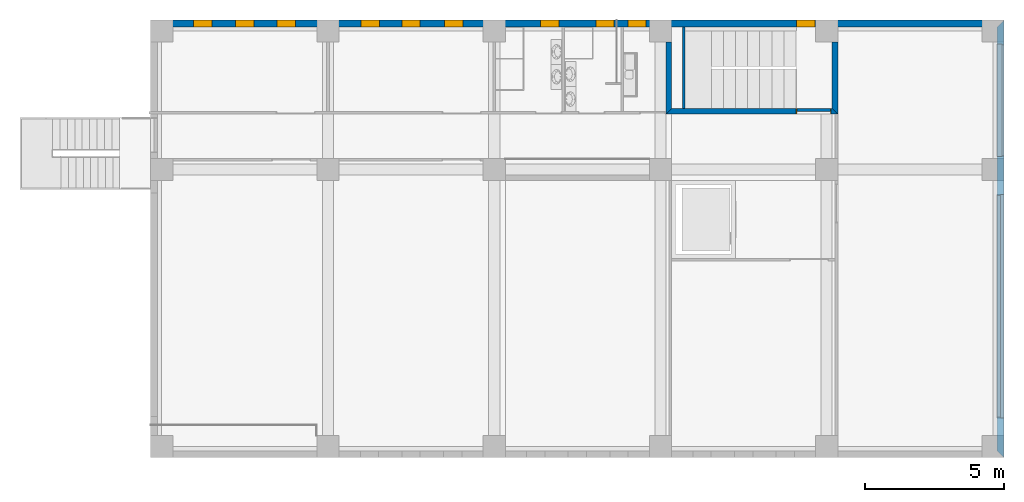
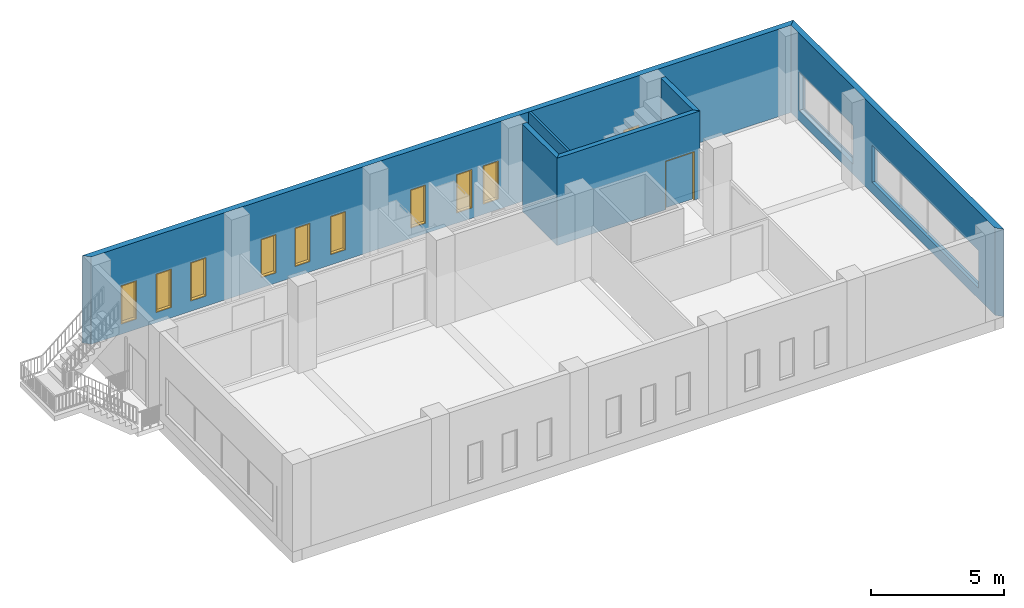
# One storey, part 4 of 14: 10 windows, 6 walls, 1 door, 13 openings.
"""IFC2X3 building model written with IfcOpenShell, lengths in millimetres."""

from ifc_helpers import new_model, entity, si_unit, converted_unit, direction, frame, origin_with_axes, origin_2d_with_axis, place, context, project, spatial, polyline, rectangle, outline, extrude, open_shell, surface_model, source, transform, mapped, material, layer, layer_set, layer_usage, type_object, element, fill, save


model = new_model("IFC2X3")

# Units and contexts
model_context = context("Model", 3, precision=1e-05, world=origin_with_axes(), true_north=direction((0.0, 1.0)))
ifc_project = project(units=[si_unit("LENGTHUNIT", "METRE", prefix="MILLI"), si_unit("AREAUNIT", "SQUARE_METRE"), si_unit("VOLUMEUNIT", "CUBIC_METRE"), converted_unit("PLANEANGLEUNIT", "DEGREE", entity("IfcPlaneAngleMeasure", 0.017453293), si_unit("PLANEANGLEUNIT", "RADIAN"), dimensions=[0, 0, 0, 0, 0, 0, 0]), si_unit("SOLIDANGLEUNIT", "STERADIAN"), si_unit("MASSUNIT", "GRAM"), si_unit("TIMEUNIT", "SECOND"), si_unit("THERMODYNAMICTEMPERATUREUNIT", "DEGREE_CELSIUS"), si_unit("LUMINOUSINTENSITYUNIT", "LUMEN")], contexts=[model_context])

# Site, building, storey
site_placement = place(None, origin_with_axes())
site = spatial("IfcSite", under=ifc_project, at=site_placement, Name="\x83T\x83C\x83g", CompositionType="ELEMENT")
building_placement = place(site_placement, origin_with_axes())
building = spatial("IfcBuilding", under=site, at=building_placement, Name="Daitec-Sample 201208", CompositionType="ELEMENT")
storey_placement = place(building_placement, frame((0.0, 0.0, 4000.0), z_axis=(0.0, 0.0, 1.0), x_axis=(1.0, 0.0, 0.0)))
storey = spatial("IfcBuildingStorey", under=building, at=storey_placement, Name="2F", CompositionType="ELEMENT", Elevation=4000.0)

# Wall, openings, windows
ifc_material_1 = material(Name="\x83R\x83\x93\x83N\x83\x8a\x81[\x83g-\x8d\\\x91¢2")
ifc_layer_1 = layer(ifc_material_1, 250.0, ventilated="UNKNOWN")
ifc_layer_set_1 = layer_set([ifc_layer_1], Name="\x83R\x83\x93\x83N\x83\x8a\x81[\x83g-\x8d\\\x91¢2 250")
ifc_layer_usage_1 = layer_usage(ifc_layer_set_1, "AXIS2", "POSITIVE", 0.0)
wall_type_1 = type_object("IfcWallType", Name="\x83R\x83\x93\x83N\x83\x8a\x81[\x83g-\x8d\\\x91¢2 250", PredefinedType="NOTDEFINED")
wall_1_placement = place(storey_placement, frame((36900.0, 23800.0, 0.0), z_axis=(0.0, 0.0, 1.0), x_axis=(-1.0, 0.0, 0.0)))
wall_1 = element("IfcWallStandardCase", 1, at=wall_1_placement, inside=storey, type_object=wall_type_1, material=ifc_layer_usage_1, Name="W8", context=model_context, shape_type="SweptSolid", body=[
    extrude(outline(polyline([(0.0, 0.0), (30800.0, 0.0), (30550.0, 250.0), (250.0, 250.0), (0.0, 0.0)])), origin_with_axes(), (0.0, 0.0, 1.0), 4000.0),
])
opening_1_placement = place(wall_1_placement, frame((28920.264, 0.0, 500.0), z_axis=(0.0, 0.0, 1.0), x_axis=(1.0, 0.0, 0.0)))
opening_1 = element("IfcOpeningElement", 2, at=opening_1_placement, cuts=wall_1, context=model_context, shape_type="SweptSolid", body=[
    extrude(rectangle(XDim=600.0, YDim=1700.0, at=origin_2d_with_axis()), frame((0.0, 59.0, 850.0), z_axis=(0.0, 1.0, 0.0), x_axis=(1.0, 0.0, 0.0)), (0.0, 0.0, 1.0), 252.0),
    extrude(rectangle(XDim=600.0, YDim=1700.0, at=origin_2d_with_axis()), frame((0.0, 61.0, 850.0), z_axis=(0.0, -1.0, 0.0), x_axis=(1.0, 0.0, 0.0)), (0.0, 0.0, 1.0), 252.0),
    extrude(rectangle(XDim=660.0, YDim=1760.0, at=origin_2d_with_axis()), frame((0.0, -66.0, 850.0), z_axis=(0.0, 1.0, 0.0), x_axis=(1.0, 0.0, 0.0)), (0.0, 0.0, 1.0), 252.0),
])
opening_2_placement = place(wall_1_placement, frame((27403.544, 0.0, 500.0), z_axis=(0.0, 0.0, 1.0), x_axis=(1.0, 0.0, 0.0)))
opening_2 = element("IfcOpeningElement", 3, at=opening_2_placement, cuts=wall_1, context=model_context, shape_type="SweptSolid", body=[
    extrude(rectangle(XDim=600.0, YDim=1700.0, at=origin_2d_with_axis()), frame((0.0, 59.0, 850.0), z_axis=(0.0, 1.0, 0.0), x_axis=(1.0, 0.0, 0.0)), (0.0, 0.0, 1.0), 252.0),
    extrude(rectangle(XDim=600.0, YDim=1700.0, at=origin_2d_with_axis()), frame((0.0, 61.0, 850.0), z_axis=(0.0, -1.0, 0.0), x_axis=(1.0, 0.0, 0.0)), (0.0, 0.0, 1.0), 252.0),
    extrude(rectangle(XDim=660.0, YDim=1760.0, at=origin_2d_with_axis()), frame((0.0, -66.0, 850.0), z_axis=(0.0, 1.0, 0.0), x_axis=(1.0, 0.0, 0.0)), (0.0, 0.0, 1.0), 252.0),
])
opening_3_placement = place(wall_1_placement, frame((25908.913, 0.0, 500.0), z_axis=(0.0, 0.0, 1.0), x_axis=(1.0, 0.0, 0.0)))
opening_3 = element("IfcOpeningElement", 4, at=opening_3_placement, cuts=wall_1, context=model_context, shape_type="SweptSolid", body=[
    extrude(rectangle(XDim=600.0, YDim=1700.0, at=origin_2d_with_axis()), frame((0.0, 191.0, 850.0), z_axis=(0.0, -1.0, 0.0), x_axis=(1.0, 0.0, 0.0)), (0.0, 0.0, 1.0), 252.0),
    extrude(rectangle(XDim=600.0, YDim=1700.0, at=origin_2d_with_axis()), frame((0.0, 189.0, 850.0), z_axis=(0.0, 1.0, 0.0), x_axis=(1.0, 0.0, 0.0)), (0.0, 0.0, 1.0), 252.0),
    extrude(rectangle(XDim=660.0, YDim=1760.0, at=origin_2d_with_axis()), frame((0.0, 316.0, 850.0), z_axis=(0.0, -1.0, 0.0), x_axis=(1.0, 0.0, 0.0)), (0.0, 0.0, 1.0), 252.0),
])
opening_4_placement = place(wall_1_placement, frame((21400.0, 0.0, 500.0), z_axis=(0.0, 0.0, 1.0), x_axis=(1.0, 0.0, 0.0)))
opening_4 = element("IfcOpeningElement", 5, at=opening_4_placement, cuts=wall_1, context=model_context, shape_type="SweptSolid", body=[
    extrude(rectangle(XDim=600.0, YDim=1700.0, at=origin_2d_with_axis()), frame((0.0, 191.0, 850.0), z_axis=(0.0, -1.0, 0.0), x_axis=(1.0, 0.0, 0.0)), (0.0, 0.0, 1.0), 252.0),
    extrude(rectangle(XDim=600.0, YDim=1700.0, at=origin_2d_with_axis()), frame((0.0, 189.0, 850.0), z_axis=(0.0, 1.0, 0.0), x_axis=(1.0, 0.0, 0.0)), (0.0, 0.0, 1.0), 252.0),
    extrude(rectangle(XDim=660.0, YDim=1760.0, at=origin_2d_with_axis()), frame((0.0, 316.0, 850.0), z_axis=(0.0, -1.0, 0.0), x_axis=(1.0, 0.0, 0.0)), (0.0, 0.0, 1.0), 252.0),
])
opening_5_placement = place(wall_1_placement, frame((22875.473, 0.0, 500.0), z_axis=(0.0, 0.0, 1.0), x_axis=(1.0, 0.0, 0.0)))
opening_5 = element("IfcOpeningElement", 6, at=opening_5_placement, cuts=wall_1, context=model_context, shape_type="SweptSolid", body=[
    extrude(rectangle(XDim=600.0, YDim=1700.0, at=origin_2d_with_axis()), frame((0.0, 191.0, 850.0), z_axis=(0.0, -1.0, 0.0), x_axis=(1.0, 0.0, 0.0)), (0.0, 0.0, 1.0), 252.0),
    extrude(rectangle(XDim=600.0, YDim=1700.0, at=origin_2d_with_axis()), frame((0.0, 189.0, 850.0), z_axis=(0.0, 1.0, 0.0), x_axis=(1.0, 0.0, 0.0)), (0.0, 0.0, 1.0), 252.0),
    extrude(rectangle(XDim=660.0, YDim=1760.0, at=origin_2d_with_axis()), frame((0.0, 316.0, 850.0), z_axis=(0.0, -1.0, 0.0), x_axis=(1.0, 0.0, 0.0)), (0.0, 0.0, 1.0), 252.0),
])
opening_6_placement = place(wall_1_placement, frame((19864.122, 0.0, 500.0), z_axis=(0.0, 0.0, 1.0), x_axis=(1.0, 0.0, 0.0)))
opening_6 = element("IfcOpeningElement", 7, at=opening_6_placement, cuts=wall_1, context=model_context, shape_type="SweptSolid", body=[
    extrude(rectangle(XDim=600.0, YDim=1700.0, at=origin_2d_with_axis()), frame((0.0, 191.0, 850.0), z_axis=(0.0, -1.0, 0.0), x_axis=(1.0, 0.0, 0.0)), (0.0, 0.0, 1.0), 252.0),
    extrude(rectangle(XDim=600.0, YDim=1700.0, at=origin_2d_with_axis()), frame((0.0, 189.0, 850.0), z_axis=(0.0, 1.0, 0.0), x_axis=(1.0, 0.0, 0.0)), (0.0, 0.0, 1.0), 252.0),
    extrude(rectangle(XDim=660.0, YDim=1760.0, at=origin_2d_with_axis()), frame((0.0, 316.0, 850.0), z_axis=(0.0, -1.0, 0.0), x_axis=(1.0, 0.0, 0.0)), (0.0, 0.0, 1.0), 252.0),
])
opening_7_placement = place(wall_1_placement, frame((7159.6717, 0.0, 500.0), z_axis=(0.0, 0.0, 1.0), x_axis=(1.0, 0.0, 0.0)))
opening_7 = element("IfcOpeningElement", 8, at=opening_7_placement, cuts=wall_1, context=model_context, shape_type="SweptSolid", body=[
    extrude(rectangle(XDim=600.0, YDim=1200.0, at=origin_2d_with_axis()), frame((0.0, 191.0, 600.0), z_axis=(0.0, -1.0, 0.0), x_axis=(1.0, 0.0, 0.0)), (0.0, 0.0, 1.0), 252.0),
    extrude(rectangle(XDim=600.0, YDim=1200.0, at=origin_2d_with_axis()), frame((0.0, 189.0, 600.0), z_axis=(0.0, 1.0, 0.0), x_axis=(1.0, 0.0, 0.0)), (0.0, 0.0, 1.0), 252.0),
    extrude(rectangle(XDim=660.0, YDim=1260.0, at=origin_2d_with_axis()), frame((0.0, 316.0, 600.0), z_axis=(0.0, -1.0, 0.0), x_axis=(1.0, 0.0, 0.0)), (0.0, 0.0, 1.0), 252.0),
])
opening_8_placement = place(wall_1_placement, frame((16396.197, 0.0, 500.0), z_axis=(0.0, 0.0, 1.0), x_axis=(1.0, 0.0, 0.0)))
opening_8 = element("IfcOpeningElement", 9, at=opening_8_placement, cuts=wall_1, context=model_context, shape_type="SweptSolid", body=[
    extrude(rectangle(XDim=600.0, YDim=1700.0, at=origin_2d_with_axis()), frame((0.0, -1.0, 850.0), z_axis=(0.0, 1.0, 0.0), x_axis=(1.0, 0.0, 0.0)), (0.0, 0.0, 1.0), 252.0),
    extrude(rectangle(XDim=600.0, YDim=1700.0, at=origin_2d_with_axis()), frame((0.0, 1.0, 850.0), z_axis=(0.0, -1.0, 0.0), x_axis=(1.0, 0.0, 0.0)), (0.0, 0.0, 1.0), 252.0),
    extrude(rectangle(XDim=660.0, YDim=1760.0, at=origin_2d_with_axis()), frame((0.0, -126.0, 850.0), z_axis=(0.0, 1.0, 0.0), x_axis=(1.0, 0.0, 0.0)), (0.0, 0.0, 1.0), 252.0),
])
opening_9_placement = place(wall_1_placement, frame((14398.791, 0.0, 500.0), z_axis=(0.0, 0.0, 1.0), x_axis=(1.0, 0.0, 0.0)))
opening_9 = element("IfcOpeningElement", 10, at=opening_9_placement, cuts=wall_1, context=model_context, shape_type="SweptSolid", body=[
    extrude(rectangle(XDim=600.0, YDim=1700.0, at=origin_2d_with_axis()), frame((0.0, -1.0, 850.0), z_axis=(0.0, 1.0, 0.0), x_axis=(1.0, 0.0, 0.0)), (0.0, 0.0, 1.0), 252.0),
    extrude(rectangle(XDim=600.0, YDim=1700.0, at=origin_2d_with_axis()), frame((0.0, 1.0, 850.0), z_axis=(0.0, -1.0, 0.0), x_axis=(1.0, 0.0, 0.0)), (0.0, 0.0, 1.0), 252.0),
    extrude(rectangle(XDim=660.0, YDim=1760.0, at=origin_2d_with_axis()), frame((0.0, -126.0, 850.0), z_axis=(0.0, 1.0, 0.0), x_axis=(1.0, 0.0, 0.0)), (0.0, 0.0, 1.0), 252.0),
])
opening_10_placement = place(wall_1_placement, frame((13248.695, 0.0, 500.0), z_axis=(0.0, 0.0, 1.0), x_axis=(1.0, 0.0, 0.0)))
opening_10 = element("IfcOpeningElement", 11, at=opening_10_placement, cuts=wall_1, context=model_context, shape_type="SweptSolid", body=[
    extrude(rectangle(XDim=600.0, YDim=1700.0, at=origin_2d_with_axis()), frame((0.0, 191.0, 850.0), z_axis=(0.0, -1.0, 0.0), x_axis=(1.0, 0.0, 0.0)), (0.0, 0.0, 1.0), 252.0),
    extrude(rectangle(XDim=600.0, YDim=1700.0, at=origin_2d_with_axis()), frame((0.0, 189.0, 850.0), z_axis=(0.0, 1.0, 0.0), x_axis=(1.0, 0.0, 0.0)), (0.0, 0.0, 1.0), 252.0),
    extrude(rectangle(XDim=660.0, YDim=1760.0, at=origin_2d_with_axis()), frame((0.0, 316.0, 850.0), z_axis=(0.0, -1.0, 0.0), x_axis=(1.0, 0.0, 0.0)), (0.0, 0.0, 1.0), 252.0),
])
ifc_material_2 = material(Name="\x94w\x8ci")
window_style = type_object("IfcWindowStyle", ConstructionType="NOTDEFINED", OperationType="NOTDEFINED", ParameterTakesPrecedence=False, Sizeable=False)
shared_shape_1 = source(origin_with_axes(), model_context, "Body", "SurfaceModel", [
    surface_model("IfcShellBasedSurfaceModel", [(-300.0, -65.0, 0.0), (-300.0, -65.0, 1700.0), (300.0, -65.0, 1700.0), (300.0, -65.0, 0.0), (-260.0, -65.0, 40.0), (260.0, -65.0, 40.0), (260.0, -65.0, 1660.0), (-260.0, -65.0, 1660.0)], [open_shell([[[0, 1, 2, 3], [4, 5, 6, 7]]])]),
    surface_model("IfcShellBasedSurfaceModel", [(-260.0, -65.0, 40.0), (-260.0, -65.0, 1660.0), (260.0, -65.0, 1660.0), (260.0, -65.0, 40.0)], [open_shell([[[0, 1, 2, 3]]])]),
    surface_model("IfcShellBasedSurfaceModel", [(-330.0, 60.0, -30.0), (-330.0, 60.0, 1730.0), (330.0, 60.0, 1730.0), (330.0, 60.0, -30.0), (-300.0, 60.0, 0.0), (300.0, 60.0, 0.0), (300.0, 60.0, 1700.0), (-300.0, 60.0, 1700.0)], [open_shell([[[0, 1, 2, 3], [4, 5, 6, 7]]])]),
    surface_model("IfcShellBasedSurfaceModel", [(-330.0, -190.0, -30.0), (-330.0, -190.0, 1730.0), (330.0, -190.0, 1730.0), (330.0, -190.0, -30.0), (-300.0, -190.0, 0.0), (300.0, -190.0, 0.0), (300.0, -190.0, 1700.0), (-300.0, -190.0, 1700.0)], [open_shell([[[0, 1, 2, 3], [4, 5, 6, 7]]])]),
    surface_model("IfcShellBasedSurfaceModel", [(-330.0, 60.0, -30.0), (330.0, 60.0, -30.0), (330.0, -190.0, -30.0), (-330.0, -190.0, -30.0), (330.0, 60.0, 1730.0), (330.0, -190.0, 1730.0), (-330.0, 60.0, 1730.0), (-330.0, -190.0, 1730.0)], [open_shell([[[0, 1, 2, 3]], [[1, 4, 5, 2]], [[6, 0, 3, 7]], [[4, 6, 7, 5]]])]),
    surface_model("IfcShellBasedSurfaceModel", [(-300.0, 60.0, 0.0), (300.0, 60.0, 0.0), (300.0, -190.0, 0.0), (-300.0, -190.0, 0.0), (300.0, 60.0, 1700.0), (300.0, -190.0, 1700.0), (-300.0, 60.0, 1700.0), (-300.0, -190.0, 1700.0)], [open_shell([[[0, 1, 2, 3]], [[1, 4, 5, 2]], [[6, 0, 3, 7]], [[4, 6, 7, 5]]])]),
])
window_1_placement = place(opening_1_placement, frame((-300.0, 0.0, 0.0), z_axis=(0.0, 0.0, 1.0), x_axis=(1.0, 0.0, 0.0)))
window_1 = element("IfcWindow", 12, at=window_1_placement, inside=storey, type_object=window_style, material=ifc_material_2, Name="AW8", OverallHeight=1700.0, OverallWidth=600.0, context=model_context, shape_type="MappedRepresentation", body=[
    mapped(shared_shape_1, transform((300.0, 60.0, 0.0), x_axis=(-1.0, 0.0, 0.0), y_axis=(0.0, -1.0, 0.0), z_axis=(0.0, 0.0, 1.0))),
])
fill(opening_1, window_1)
window_2_placement = place(opening_2_placement, frame((-300.0, 0.0, 0.0), z_axis=(0.0, 0.0, 1.0), x_axis=(1.0, 0.0, 0.0)))
window_2 = element("IfcWindow", 13, at=window_2_placement, inside=storey, type_object=window_style, material=ifc_material_2, Name="AW9", OverallHeight=1700.0, OverallWidth=600.0, context=model_context, shape_type="MappedRepresentation", body=[
    mapped(shared_shape_1, transform((300.0, 60.0, 0.0), x_axis=(-1.0, 0.0, 0.0), y_axis=(0.0, -1.0, 0.0), z_axis=(0.0, 0.0, 1.0))),
])
fill(opening_2, window_2)
shared_shape_2 = source(origin_with_axes(), model_context, "Body", "SurfaceModel", [
    surface_model("IfcShellBasedSurfaceModel", [(-300.0, 65.0, 0.0), (-300.0, 65.0, 1700.0), (300.0, 65.0, 1700.0), (300.0, 65.0, 0.0), (-260.0, 65.0, 40.0), (260.0, 65.0, 40.0), (260.0, 65.0, 1660.0), (-260.0, 65.0, 1660.0)], [open_shell([[[0, 1, 2, 3], [4, 5, 6, 7]]])]),
    surface_model("IfcShellBasedSurfaceModel", [(-260.0, 65.0, 40.0), (-260.0, 65.0, 1660.0), (260.0, 65.0, 1660.0), (260.0, 65.0, 40.0)], [open_shell([[[0, 1, 2, 3]]])]),
    surface_model("IfcShellBasedSurfaceModel", [(-330.0, 190.0, -30.0), (-330.0, 190.0, 1730.0), (330.0, 190.0, 1730.0), (330.0, 190.0, -30.0), (-300.0, 190.0, 0.0), (300.0, 190.0, 0.0), (300.0, 190.0, 1700.0), (-300.0, 190.0, 1700.0)], [open_shell([[[0, 1, 2, 3], [4, 5, 6, 7]]])]),
    surface_model("IfcShellBasedSurfaceModel", [(-330.0, -60.0, -30.0), (-330.0, -60.0, 1730.0), (330.0, -60.0, 1730.0), (330.0, -60.0, -30.0), (-300.0, -60.0, 0.0), (300.0, -60.0, 0.0), (300.0, -60.0, 1700.0), (-300.0, -60.0, 1700.0)], [open_shell([[[0, 1, 2, 3], [4, 5, 6, 7]]])]),
    surface_model("IfcShellBasedSurfaceModel", [(-330.0, 190.0, -30.0), (330.0, 190.0, -30.0), (330.0, -60.0, -30.0), (-330.0, -60.0, -30.0), (330.0, 190.0, 1730.0), (330.0, -60.0, 1730.0), (-330.0, 190.0, 1730.0), (-330.0, -60.0, 1730.0)], [open_shell([[[0, 1, 2, 3]], [[1, 4, 5, 2]], [[6, 0, 3, 7]], [[4, 6, 7, 5]]])]),
    surface_model("IfcShellBasedSurfaceModel", [(-300.0, 190.0, 0.0), (300.0, 190.0, 0.0), (300.0, -60.0, 0.0), (-300.0, -60.0, 0.0), (300.0, 190.0, 1700.0), (300.0, -60.0, 1700.0), (-300.0, 190.0, 1700.0), (-300.0, -60.0, 1700.0)], [open_shell([[[0, 1, 2, 3]], [[1, 4, 5, 2]], [[6, 0, 3, 7]], [[4, 6, 7, 5]]])]),
])
window_3_placement = place(opening_3_placement, frame((-300.0, 0.0, 0.0), z_axis=(0.0, 0.0, 1.0), x_axis=(1.0, 0.0, 0.0)))
window_3 = element("IfcWindow", 14, at=window_3_placement, inside=storey, type_object=window_style, material=ifc_material_2, Name="AW0", OverallHeight=1700.0, OverallWidth=600.0, context=model_context, shape_type="MappedRepresentation", body=[
    mapped(shared_shape_2, transform((300.0, 60.0, 0.0))),
])
fill(opening_3, window_3)
window_4_placement = place(opening_4_placement, frame((-300.0, 0.0, 0.0), z_axis=(0.0, 0.0, 1.0), x_axis=(1.0, 0.0, 0.0)))
window_4 = element("IfcWindow", 15, at=window_4_placement, inside=storey, type_object=window_style, material=ifc_material_2, Name="AW1", OverallHeight=1700.0, OverallWidth=600.0, context=model_context, shape_type="MappedRepresentation", body=[
    mapped(shared_shape_2, transform((300.0, 60.0, 0.0))),
])
fill(opening_4, window_4)
window_5_placement = place(opening_5_placement, frame((-300.0, 0.0, 0.0), z_axis=(0.0, 0.0, 1.0), x_axis=(1.0, 0.0, 0.0)))
window_5 = element("IfcWindow", 16, at=window_5_placement, inside=storey, type_object=window_style, material=ifc_material_2, Name="AW2", OverallHeight=1700.0, OverallWidth=600.0, context=model_context, shape_type="MappedRepresentation", body=[
    mapped(shared_shape_2, transform((300.0, 60.0, 0.0))),
])
fill(opening_5, window_5)
window_6_placement = place(opening_6_placement, frame((-300.0, 0.0, 0.0), z_axis=(0.0, 0.0, 1.0), x_axis=(1.0, 0.0, 0.0)))
window_6 = element("IfcWindow", 17, at=window_6_placement, inside=storey, type_object=window_style, material=ifc_material_2, Name="AW3", OverallHeight=1700.0, OverallWidth=600.0, context=model_context, shape_type="MappedRepresentation", body=[
    mapped(shared_shape_2, transform((300.0, 60.0, 0.0))),
])
fill(opening_6, window_6)
window_7_placement = place(opening_10_placement, frame((-300.0, 0.0, 0.0), z_axis=(0.0, 0.0, 1.0), x_axis=(1.0, 0.0, 0.0)))
window_7 = element("IfcWindow", 18, at=window_7_placement, inside=storey, type_object=window_style, material=ifc_material_2, Name="AW4", OverallHeight=1700.0, OverallWidth=600.0, context=model_context, shape_type="MappedRepresentation", body=[
    mapped(shared_shape_2, transform((300.0, 60.0, 0.0))),
])
fill(opening_10, window_7)
shared_shape_3 = source(origin_with_axes(), model_context, "Body", "SurfaceModel", [
    surface_model("IfcShellBasedSurfaceModel", [(-300.0, -125.0, 0.0), (-300.0, -125.0, 1700.0), (300.0, -125.0, 1700.0), (300.0, -125.0, 0.0), (-260.0, -125.0, 40.0), (260.0, -125.0, 40.0), (260.0, -125.0, 1660.0), (-260.0, -125.0, 1660.0)], [open_shell([[[0, 1, 2, 3], [4, 5, 6, 7]]])]),
    surface_model("IfcShellBasedSurfaceModel", [(-260.0, -125.0, 40.0), (-260.0, -125.0, 1660.0), (260.0, -125.0, 1660.0), (260.0, -125.0, 40.0)], [open_shell([[[0, 1, 2, 3]]])]),
    surface_model("IfcShellBasedSurfaceModel", [(-330.0, 0.0, -30.0), (-330.0, 0.0, 1730.0), (330.0, 0.0, 1730.0), (330.0, 0.0, -30.0), (-300.0, 0.0, 0.0), (300.0, 0.0, 0.0), (300.0, 0.0, 1700.0), (-300.0, 0.0, 1700.0)], [open_shell([[[0, 1, 2, 3], [4, 5, 6, 7]]])]),
    surface_model("IfcShellBasedSurfaceModel", [(-330.0, -250.0, -30.0), (-330.0, -250.0, 1730.0), (330.0, -250.0, 1730.0), (330.0, -250.0, -30.0), (-300.0, -250.0, 0.0), (300.0, -250.0, 0.0), (300.0, -250.0, 1700.0), (-300.0, -250.0, 1700.0)], [open_shell([[[0, 1, 2, 3], [4, 5, 6, 7]]])]),
    surface_model("IfcShellBasedSurfaceModel", [(-330.0, 0.0, -30.0), (330.0, 0.0, -30.0), (330.0, -250.0, -30.0), (-330.0, -250.0, -30.0), (330.0, 0.0, 1730.0), (330.0, -250.0, 1730.0), (-330.0, 0.0, 1730.0), (-330.0, -250.0, 1730.0)], [open_shell([[[0, 1, 2, 3]], [[1, 4, 5, 2]], [[6, 0, 3, 7]], [[4, 6, 7, 5]]])]),
    surface_model("IfcShellBasedSurfaceModel", [(-300.0, 0.0, 0.0), (300.0, 0.0, 0.0), (300.0, -250.0, 0.0), (-300.0, -250.0, 0.0), (300.0, 0.0, 1700.0), (300.0, -250.0, 1700.0), (-300.0, 0.0, 1700.0), (-300.0, -250.0, 1700.0)], [open_shell([[[0, 1, 2, 3]], [[1, 4, 5, 2]], [[6, 0, 3, 7]], [[4, 6, 7, 5]]])]),
])
window_8_placement = place(opening_8_placement, frame((-300.0, 0.0, 0.0), z_axis=(0.0, 0.0, 1.0), x_axis=(1.0, 0.0, 0.0)))
window_8 = element("IfcWindow", 19, at=window_8_placement, inside=storey, type_object=window_style, material=ifc_material_2, Name="AW3", OverallHeight=1700.0, OverallWidth=600.0, context=model_context, shape_type="MappedRepresentation", body=[
    mapped(shared_shape_3, transform((300.0, 0.0, 0.0), x_axis=(-1.0, 0.0, 0.0), y_axis=(0.0, -1.0, 0.0), z_axis=(0.0, 0.0, 1.0))),
])
fill(opening_8, window_8)
window_9_placement = place(opening_9_placement, frame((-300.0, 0.0, 0.0), z_axis=(0.0, 0.0, 1.0), x_axis=(1.0, 0.0, 0.0)))
window_9 = element("IfcWindow", 20, at=window_9_placement, inside=storey, type_object=window_style, material=ifc_material_2, Name="AW4", OverallHeight=1700.0, OverallWidth=600.0, context=model_context, shape_type="MappedRepresentation", body=[
    mapped(shared_shape_3, transform((300.0, 0.0, 0.0), x_axis=(-1.0, 0.0, 0.0), y_axis=(0.0, -1.0, 0.0), z_axis=(0.0, 0.0, 1.0))),
])
fill(opening_9, window_9)
shared_shape_4 = source(origin_with_axes(), model_context, "Body", "SurfaceModel", [
    surface_model("IfcShellBasedSurfaceModel", [(-300.0, 65.0, 0.0), (-300.0, 65.0, 1200.0), (300.0, 65.0, 1200.0), (300.0, 65.0, 0.0), (-260.0, 65.0, 40.0), (260.0, 65.0, 40.0), (260.0, 65.0, 1160.0), (-260.0, 65.0, 1160.0)], [open_shell([[[0, 1, 2, 3], [4, 5, 6, 7]]])]),
    surface_model("IfcShellBasedSurfaceModel", [(-260.0, 65.0, 40.0), (-260.0, 65.0, 1160.0), (260.0, 65.0, 1160.0), (260.0, 65.0, 40.0)], [open_shell([[[0, 1, 2, 3]]])]),
    surface_model("IfcShellBasedSurfaceModel", [(-330.0, 190.0, -30.0), (-330.0, 190.0, 1230.0), (330.0, 190.0, 1230.0), (330.0, 190.0, -30.0), (-300.0, 190.0, 0.0), (300.0, 190.0, 0.0), (300.0, 190.0, 1200.0), (-300.0, 190.0, 1200.0)], [open_shell([[[0, 1, 2, 3], [4, 5, 6, 7]]])]),
    surface_model("IfcShellBasedSurfaceModel", [(-330.0, -60.0, -30.0), (-330.0, -60.0, 1230.0), (330.0, -60.0, 1230.0), (330.0, -60.0, -30.0), (-300.0, -60.0, 0.0), (300.0, -60.0, 0.0), (300.0, -60.0, 1200.0), (-300.0, -60.0, 1200.0)], [open_shell([[[0, 1, 2, 3], [4, 5, 6, 7]]])]),
    surface_model("IfcShellBasedSurfaceModel", [(-330.0, 190.0, -30.0), (330.0, 190.0, -30.0), (330.0, -60.0, -30.0), (-330.0, -60.0, -30.0), (330.0, 190.0, 1230.0), (330.0, -60.0, 1230.0), (-330.0, 190.0, 1230.0), (-330.0, -60.0, 1230.0)], [open_shell([[[0, 1, 2, 3]], [[1, 4, 5, 2]], [[6, 0, 3, 7]], [[4, 6, 7, 5]]])]),
    surface_model("IfcShellBasedSurfaceModel", [(-300.0, 190.0, 0.0), (300.0, 190.0, 0.0), (300.0, -60.0, 0.0), (-300.0, -60.0, 0.0), (300.0, 190.0, 1200.0), (300.0, -60.0, 1200.0), (-300.0, 190.0, 1200.0), (-300.0, -60.0, 1200.0)], [open_shell([[[0, 1, 2, 3]], [[1, 4, 5, 2]], [[6, 0, 3, 7]], [[4, 6, 7, 5]]])]),
])
window_10_placement = place(opening_7_placement, frame((-300.0, 0.0, 0.0), z_axis=(0.0, 0.0, 1.0), x_axis=(1.0, 0.0, 0.0)))
window_10 = element("IfcWindow", 21, at=window_10_placement, inside=storey, type_object=window_style, material=ifc_material_2, Name="AW2", OverallHeight=1200.0, OverallWidth=600.0, context=model_context, shape_type="MappedRepresentation", body=[
    mapped(shared_shape_4, transform((300.0, 60.0, 0.0))),
])
fill(opening_7, window_10)

# Wall, openings
ifc_layer_usage_2 = layer_usage(ifc_layer_set_1, "AXIS2", "POSITIVE", 0.0)
wall_2_placement = place(storey_placement, frame((36900.0, 8000.0, 0.0), z_axis=(0.0, 0.0, 1.0), x_axis=(0.0, 1.0, 0.0)))
wall_2 = element("IfcWallStandardCase", 22, at=wall_2_placement, inside=storey, type_object=wall_type_1, material=ifc_layer_usage_2, Name="W7", context=model_context, shape_type="SweptSolid", body=[
    extrude(outline(polyline([(0.0, 0.0), (15800.0, 0.0), (15550.0, 250.0), (250.0, 250.0), (0.0, 0.0)])), origin_with_axes(), (0.0, 0.0, 1.0), 4000.0),
])
opening_11_placement = place(wall_2_placement, frame((5462.7727, 0.0, 500.0), z_axis=(0.0, 0.0, 1.0), x_axis=(1.0, 0.0, 0.0)))
element("IfcOpeningElement", 23, at=opening_11_placement, cuts=wall_2, context=model_context, shape_type="SweptSolid", body=[
    extrude(rectangle(XDim=8000.0, YDim=1700.0, at=origin_2d_with_axis()), frame((0.0, -1.0, 850.0), z_axis=(0.0, 1.0, 0.0), x_axis=(1.0, 0.0, 0.0)), (0.0, 0.0, 1.0), 252.0),
    extrude(rectangle(XDim=8000.0, YDim=1700.0, at=origin_2d_with_axis()), frame((0.0, 1.0, 850.0), z_axis=(0.0, -1.0, 0.0), x_axis=(1.0, 0.0, 0.0)), (0.0, 0.0, 1.0), 252.0),
    extrude(rectangle(XDim=8060.0, YDim=1760.0, at=origin_2d_with_axis()), frame((0.0, 126.0, 850.0), z_axis=(0.0, -1.0, 0.0), x_axis=(1.0, 0.0, 0.0)), (0.0, 0.0, 1.0), 252.0),
])
opening_12_placement = place(wall_2_placement, frame((12904.157, 0.0, 500.0), z_axis=(0.0, 0.0, 1.0), x_axis=(1.0, 0.0, 0.0)))
element("IfcOpeningElement", 24, at=opening_12_placement, cuts=wall_2, context=model_context, shape_type="SweptSolid", body=[
    extrude(rectangle(XDim=4000.0, YDim=1700.0, at=origin_2d_with_axis()), frame((0.0, 191.0, 850.0), z_axis=(0.0, -1.0, 0.0), x_axis=(1.0, 0.0, 0.0)), (0.0, 0.0, 1.0), 252.0),
    extrude(rectangle(XDim=4000.0, YDim=1700.0, at=origin_2d_with_axis()), frame((0.0, 189.0, 850.0), z_axis=(0.0, 1.0, 0.0), x_axis=(1.0, 0.0, 0.0)), (0.0, 0.0, 1.0), 252.0),
    extrude(rectangle(XDim=4060.0, YDim=1760.0, at=origin_2d_with_axis()), frame((0.0, 316.0, 850.0), z_axis=(0.0, -1.0, 0.0), x_axis=(1.0, 0.0, 0.0)), (0.0, 0.0, 1.0), 252.0),
])

# Wall
ifc_layer_2 = layer(ifc_material_1, 200.0, ventilated="UNKNOWN")
ifc_layer_set_2 = layer_set([ifc_layer_2], Name="\x83R\x83\x93\x83N\x83\x8a\x81[\x83g-\x8d\\\x91¢2 200")
ifc_layer_usage_3 = layer_usage(ifc_layer_set_2, "AXIS2", "NEGATIVE", 0.0)
wall_type_2 = type_object("IfcWallType", Name="\x83R\x83\x93\x83N\x83\x8a\x81[\x83g-\x8d\\\x91¢2 200", PredefinedType="NOTDEFINED")
wall_3_placement = place(storey_placement, frame((24900.0, 23000.0, 0.0), z_axis=(0.0, 0.0, 1.0), x_axis=(0.0, -1.0, 0.0)))
element("IfcWallStandardCase", 25, at=wall_3_placement, inside=storey, type_object=wall_type_2, material=ifc_layer_usage_3, Name="W2", context=model_context, shape_type="SweptSolid", body=[
    extrude(outline(polyline([(0.0, -200.0), (2600.0911, -200.0), (2400.0911, 0.0), (0.0, 0.0), (0.0, -200.0)])), origin_with_axes(), (0.0, 0.0, 1.0), 4000.0),
])

# Wall, opening, door
ifc_layer_usage_4 = layer_usage(ifc_layer_set_2, "AXIS2", "POSITIVE", 0.0)
wall_4_placement = place(storey_placement, frame((24900.0, 20399.909, 0.0), z_axis=(0.0, 0.0, 1.0), x_axis=(1.0, 0.0, 0.0)))
wall_4 = element("IfcWallStandardCase", 26, at=wall_4_placement, inside=storey, type_object=wall_type_2, material=ifc_layer_usage_4, Name="W3", context=model_context, shape_type="SweptSolid", body=[
    extrude(outline(polyline([(-200.0, 0.0), (6000.0, 0.0), (5800.0, 200.0), (0.0, 200.0), (-200.0, 0.0)])), origin_with_axes(), (0.0, 0.0, 1.0), 4000.0),
])
opening_13_placement = place(wall_4_placement, frame((5130.9913, 0.0, 0.0), z_axis=(0.0, 0.0, 1.0), x_axis=(1.0, 0.0, 0.0)))
opening_13 = element("IfcOpeningElement", 27, at=opening_13_placement, cuts=wall_4, context=model_context, shape_type="SweptSolid", body=[
    extrude(rectangle(XDim=1260.0, YDim=2230.0, at=origin_2d_with_axis()), frame((0.0, -101.0, 1115.0), z_axis=(0.0, 1.0, 0.0), x_axis=(1.0, 0.0, 0.0)), (0.0, 0.0, 1.0), 202.0),
])
door_style = type_object("IfcDoorStyle", ConstructionType="NOTDEFINED", OperationType="NOTDEFINED", ParameterTakesPrecedence=False, Sizeable=False)
door_placement = place(opening_13_placement, frame((-600.0, 0.0, 0.0), z_axis=(0.0, 0.0, 1.0), x_axis=(1.0, 0.0, 0.0)))
door = element("IfcDoor", 28, at=door_placement, inside=storey, type_object=door_style, material=ifc_material_2, Name="SD1", OverallHeight=2200.0, OverallWidth=1200.0, context=model_context, shape_type="SurfaceModel", body=[
    surface_model("IfcShellBasedSurfaceModel", [(-30.0, 0.0, 0.0), (0.0, 0.0, 0.0), (0.0, 0.0, 2200.0), (1200.0, 0.0, 2200.0), (1200.0, 0.0, 0.0), (1230.0, 0.0, 0.0), (1230.0, 0.0, 2230.0), (-30.0, 0.0, 2230.0)], [open_shell([[[0, 1, 2, 3, 4, 5, 6, 7]]])]),
    surface_model("IfcShellBasedSurfaceModel", [(-30.0, 200.0, 0.0), (0.0, 200.0, 0.0), (0.0, 200.0, 2200.0), (1200.0, 200.0, 2200.0), (1200.0, 200.0, 0.0), (1230.0, 200.0, 0.0), (1230.0, 200.0, 2230.0), (-30.0, 200.0, 2230.0)], [open_shell([[[0, 1, 2, 3, 4, 5, 6, 7]]])]),
    surface_model("IfcShellBasedSurfaceModel", [(0.0, 0.0, 0.0), (0.0, 200.0, 0.0), (0.0, 200.0, 2200.0), (0.0, 0.0, 2200.0), (-30.0, 0.0, 0.0), (-30.0, 200.0, 0.0), (1200.0, 200.0, 2200.0), (1200.0, 0.0, 2200.0), (-30.0, 0.0, 2230.0), (-30.0, 200.0, 2230.0), (1200.0, 200.0, 0.0), (1200.0, 0.0, 0.0), (1230.0, 0.0, 2230.0), (1230.0, 200.0, 2230.0), (1230.0, 200.0, 0.0), (1230.0, 0.0, 0.0)], [open_shell([[[0, 1, 2, 3]], [[4, 5, 1, 0]], [[3, 2, 6, 7]], [[8, 9, 5, 4]], [[7, 6, 10, 11]], [[12, 13, 9, 8]], [[11, 10, 14, 15]], [[15, 14, 13, 12]]])]),
])
fill(opening_13, door)

# Walls
ifc_layer_usage_5 = layer_usage(ifc_layer_set_2, "AXIS2", "NEGATIVE", 0.0)
wall_5_placement = place(storey_placement, frame((30900.0, 23000.0, 0.0), z_axis=(0.0, 0.0, 1.0), x_axis=(0.0, -1.0, 0.0)))
element("IfcWallStandardCase", 29, at=wall_5_placement, inside=storey, type_object=wall_type_2, material=ifc_layer_usage_5, Name="W4", context=model_context, shape_type="SweptSolid", body=[
    extrude(outline(polyline([(0.0, -200.0), (2400.0911, -200.0), (2600.0911, 0.0), (0.0, 0.0), (0.0, -200.0)])), origin_with_axes(), (0.0, 0.0, 1.0), 4000.0),
])
ifc_layer_3 = layer(ifc_material_1, 100.0, ventilated="UNKNOWN")
ifc_layer_set_3 = layer_set([ifc_layer_3], Name="\x83R\x83\x93\x83N\x83\x8a\x81[\x83g-\x8d\\\x91¢2 100")
ifc_layer_usage_6 = layer_usage(ifc_layer_set_3, "AXIS2", "NEGATIVE", 0.0)
wall_type_3 = type_object("IfcWallType", Name="\x83R\x83\x93\x83N\x83\x8a\x81[\x83g-\x8d\\\x91¢2 100", PredefinedType="NOTDEFINED")
wall_6_placement = place(storey_placement, frame((25393.973, 23800.0, 0.0), z_axis=(0.0, 0.0, 1.0), x_axis=(0.0, -1.0, 0.0)))
element("IfcWallStandardCase", 30, at=wall_6_placement, inside=storey, type_object=wall_type_3, material=ifc_layer_usage_6, Name="W0", context=model_context, shape_type="SweptSolid", body=[
    extrude(outline(polyline([(250.0, -100.0), (3200.0, -100.0), (3200.0, 0.0), (250.0, 0.0), (250.0, -100.0)])), origin_with_axes(), (0.0, 0.0, 1.0), 4000.0),
])

save(model, "model.ifc")
